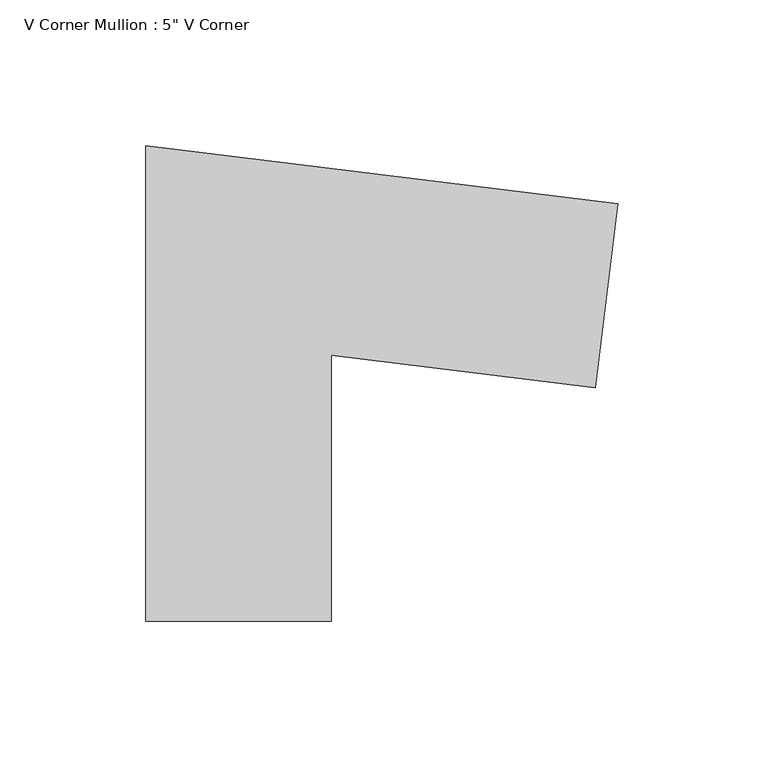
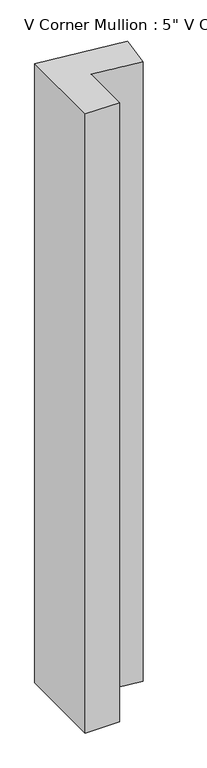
"""IFC4 building model written with IfcOpenShell, lengths in millimetres: member geometry."""

import ifcopenshell
import ifcopenshell.guid

model = None  # the IFC model being written
_history = None  # IfcOwnerHistory: only IFC2X3 demands one
_inside = {}  # id of a spatial element -> (the spatial element, [elements in it])
_under = {}  # id of a project, library or spatial element -> (it, [spatial elements below it])
_declared = {}  # id of a project -> (the project, [libraries it declares])
_typed = {}  # id of a type object -> (the type object, [elements of that type])
_made_of = {}  # id of a material, layer set ... -> (it, [elements and type objects made of it])


def new_model(schema):
    """Start an empty IFC model of exactly this schema.

    Asked for "IFC4X3", IfcOpenShell would pick the latest addendum, in which some entities
    have other attributes; the version numbers below select the first issue.
    IFC2X3 requires an IfcOwnerHistory on every rooted entity: one is made here for all.
    """
    global model, _history
    if schema == "IFC4X3":
        model = ifcopenshell.file(schema_version=(4, 3, 0, 0))
    else:
        model = ifcopenshell.file(schema=schema)
    _inside.clear()
    _under.clear()
    _declared.clear()
    _typed.clear()
    _made_of.clear()
    _history = None
    if model.schema == "IFC2X3":
        org = make("IfcOrganization", Name="unknown")
        user = make(
            "IfcPersonAndOrganization",
            ThePerson=make("IfcPerson", FamilyName="unknown"),
            TheOrganization=org,
        )
        app = make(
            "IfcApplication",
            ApplicationDeveloper=org,
            Version="unknown",
            ApplicationFullName="unknown",
            ApplicationIdentifier="unknown",
        )
        _history = make(
            "IfcOwnerHistory",
            OwningUser=user,
            OwningApplication=app,
            ChangeAction="ADDED",
            CreationDate=0,
        )
    return model


def make(cls, **values):
    """One entity of the class cls with the attributes given. An attribute that is None is left unset."""
    return model.create_entity(
        cls, **{name: value for name, value in values.items() if value is not None}
    )


def rooted(cls, **values):
    """An entity with a GlobalId (a new one), such as an element, a storey or a relation."""
    return make(cls, GlobalId=ifcopenshell.guid.new(), OwnerHistory=_history, **values)


def si_unit(unit_type, name, prefix=None):
    """IfcSIUnit, for example si_unit("LENGTHUNIT", "METRE", prefix="MILLI")."""
    return make("IfcSIUnit", UnitType=unit_type, Prefix=prefix, Name=name)


def assignment(units):
    """IfcUnitAssignment: the units of a project."""
    return None if units is None else make("IfcUnitAssignment", Units=units)


def point(xyz):
    """IfcCartesianPoint."""
    return None if xyz is None else make("IfcCartesianPoint", Coordinates=xyz)


def direction(xyz):
    """IfcDirection."""
    return None if xyz is None else make("IfcDirection", DirectionRatios=xyz)


def frame(location, z_axis=None, x_axis=None):
    """IfcAxis2Placement3D, a coordinate frame: its origin and axes. An axis left out is left unset."""
    return make(
        "IfcAxis2Placement3D",
        Location=point(location),
        Axis=direction(z_axis),
        RefDirection=direction(x_axis),
    )


def origin():
    """The frame at (0, 0, 0) with its axes left unset."""
    return frame((0.0, 0.0, 0.0))


def place(relative_to, where):
    """IfcLocalPlacement: puts the frame where relative to a parent placement (None: the world)."""
    return make(
        "IfcLocalPlacement", PlacementRelTo=relative_to, RelativePlacement=where
    )


def context(
    kind, dimensions, precision=None, world=None, true_north=None, identifier=None
):
    """IfcGeometricRepresentationContext, for example the 3D "Model" context."""
    return make(
        "IfcGeometricRepresentationContext",
        ContextIdentifier=identifier,
        ContextType=kind,
        CoordinateSpaceDimension=dimensions,
        Precision=precision,
        WorldCoordinateSystem=world,
        TrueNorth=true_north,
    )


def project(units=None, contexts=None):
    """IfcProject with its units and contexts."""
    return rooted(
        "IfcProject",
        Name="project",
        RepresentationContexts=contexts,
        UnitsInContext=assignment(units),
    )


def spatial(cls, under=None, at=None, **own):
    """A site, building, storey or space (cls), placed at a placement, below another one or the project."""
    s = rooted(cls, ObjectPlacement=at, **own)
    if under is not None:
        _under.setdefault(under.id(), (under, []))[1].append(s)
    return s


def polyline(points):
    """IfcPolyline through the points."""
    return make("IfcPolyline", Points=[point(p) for p in points])


def outline(outer, holes=None, kind="AREA"):
    """IfcArbitraryClosedProfileDef: a profile drawn as a closed curve; with holes, ...WithVoids."""
    if holes is None:
        return make("IfcArbitraryClosedProfileDef", ProfileType=kind, OuterCurve=outer)
    return make(
        "IfcArbitraryProfileDefWithVoids",
        ProfileType=kind,
        OuterCurve=outer,
        InnerCurves=holes,
    )


def extrude(swept, where, along, depth):
    """IfcExtrudedAreaSolid: the profile swept, set in the frame where, extruded along a direction by depth."""
    return make(
        "IfcExtrudedAreaSolid",
        SweptArea=swept,
        Position=where,
        ExtrudedDirection=direction(along),
        Depth=depth,
    )


def shape(context_of_items, identifier, shape_type, items):
    """IfcShapeRepresentation: the items that make up one representation, for example the "Body"."""
    return make(
        "IfcShapeRepresentation",
        ContextOfItems=context_of_items,
        RepresentationIdentifier=identifier,
        RepresentationType=shape_type,
        Items=items,
    )


def source(mapping_origin, context_of_items, identifier, shape_type, items):
    """IfcRepresentationMap: a shape defined once, which mapped items show again and again."""
    return make(
        "IfcRepresentationMap",
        MappingOrigin=mapping_origin,
        MappedRepresentation=shape(context_of_items, identifier, shape_type, items),
    )


def transform(
    local_origin,
    x_axis=None,
    y_axis=None,
    z_axis=None,
    scale=None,
    scale2=None,
    scale3=None,
    uniform=True,
):
    """IfcCartesianTransformationOperator3D, or its non-uniform kind. x_axis, y_axis, z_axis: its Axis1, 2, 3."""
    if uniform:
        return make(
            "IfcCartesianTransformationOperator3D",
            Axis1=direction(x_axis),
            Axis2=direction(y_axis),
            LocalOrigin=point(local_origin),
            Scale=scale,
            Axis3=direction(z_axis),
        )
    return make(
        "IfcCartesianTransformationOperator3DnonUniform",
        Axis1=direction(x_axis),
        Axis2=direction(y_axis),
        LocalOrigin=point(local_origin),
        Scale=scale,
        Axis3=direction(z_axis),
        Scale2=scale2,
        Scale3=scale3,
    )


def mapped(mapping_source, mapping_target):
    """IfcMappedItem: shows the shape of a source again, moved by a transform."""
    return make(
        "IfcMappedItem", MappingSource=mapping_source, MappingTarget=mapping_target
    )


def made_of(thing, what):
    """Note that an element or type object is made of a material, layer set ...; save() writes the relation."""
    if what is not None:
        _made_of.setdefault(what.id(), (what, []))[1].append(thing)
    return thing


def element(
    cls,
    number,
    at=None,
    inside=None,
    cuts=None,
    type_object=None,
    material=None,
    context=None,
    identifier="Body",
    shape_type=None,
    held_by="IfcProductDefinitionShape",
    body=None,
    shapes=None,
    **own,
):
    """One element of the class cls, such as IfcWall. Its Tag is "e" and its number.

    at: its placement. inside: the storey or other place that contains it. cuts: it is an
    opening in that element (IfcRelVoidsElement). A single representation is given by context,
    identifier, shape_type and body (its items); several are given by shapes. held_by: the class
    of the entity that holds the representations. save() writes the other relations.
    """
    e = rooted(cls, Tag="e%d" % number, ObjectPlacement=at, **own)
    if body is not None:
        shapes = [shape(context, identifier, shape_type, body)]
    if shapes is not None:
        e.Representation = make(held_by, Representations=shapes)
    if inside is not None:
        _inside.setdefault(inside.id(), (inside, []))[1].append(e)
    if cuts is not None:
        rooted(
            "IfcRelVoidsElement", RelatingBuildingElement=cuts, RelatedOpeningElement=e
        )
    if type_object is not None:
        _typed.setdefault(type_object.id(), (type_object, []))[1].append(e)
    return made_of(e, material)


def aggregate(whole, parts):
    """IfcRelAggregates: a whole, such as a stair, and the parts it consists of."""
    return rooted("IfcRelAggregates", RelatingObject=whole, RelatedObjects=parts)


def save(model, path):
    """Write the relations noted so far, then the file.

    IfcRelAggregates (storeys below a building ...), IfcRelContainedInSpatialStructure (elements
    in a storey), IfcRelDefinesByType, IfcRelAssociatesMaterial and IfcRelDeclares: one each for
    every whole, place, type object, material and project.
    """
    for whole, parts in _under.values():
        aggregate(whole, parts)
    for where, things in _inside.values():
        rooted(
            "IfcRelContainedInSpatialStructure",
            RelatedElements=things,
            RelatingStructure=where,
        )
    for kind, things in _typed.values():
        rooted("IfcRelDefinesByType", RelatedObjects=things, RelatingType=kind)
    for what, things in _made_of.values():
        rooted("IfcRelAssociatesMaterial", RelatedObjects=things, RelatingMaterial=what)
    for by, libraries in _declared.values():
        rooted("IfcRelDeclares", RelatingContext=by, RelatedDefinitions=libraries)
    model.write(path)


def member_84e75425(model_context):
    return source(origin(), model_context, "Body", "SweptSolid", [
        extrude(outline(polyline([(66.0039553, 16.5092531), (-24.4300543, 27.6131532), (-24.4300543, -63.5), (-87.9300543, -63.5), (-87.9300543, 99.3868468), (73.7426586, 79.5359337), (66.0039553, 16.5092531)])), frame((0.0, 0.0, -1219.2), z_axis=(0.0, 0.0, 1.0), x_axis=(1.0, 0.0, 0.0)), (0.0, 0.0, 1.0), 1219.2),
    ])


if __name__ == "__main__":
    model = new_model("IFC4")
    model_context = context("Model", 3, world=origin())
    ifc_project = project(units=[si_unit("LENGTHUNIT", "METRE", prefix="MILLI")], contexts=[model_context])
    site = spatial("IfcSite", under=ifc_project)
    building = spatial("IfcBuilding", under=site)
    placement = place(None, origin())
    member_shape = member_84e75425(model_context)
    element("IfcMember", 1, ObjectType="V Corner Mullion : 5\" V Corner", at=placement, inside=building, context=model_context, shape_type="MappedRepresentation", body=[
        mapped(member_shape, transform((0.0, 0.0, 0.0), x_axis=(1.0, 0.0, 0.0), y_axis=(0.0, 1.0, 0.0), z_axis=(0.0, 0.0, 1.0))),
    ])
    save(model, "model.ifc")
